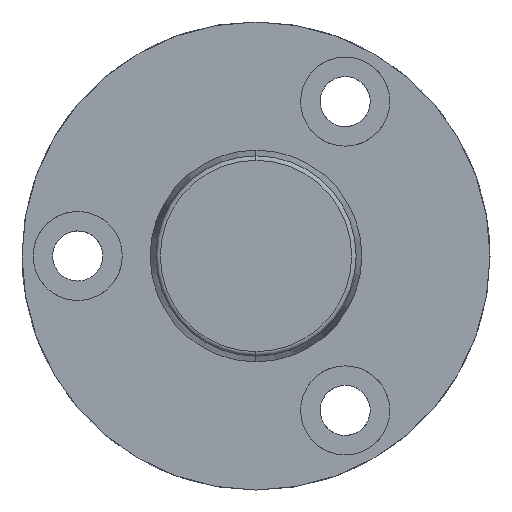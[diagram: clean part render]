
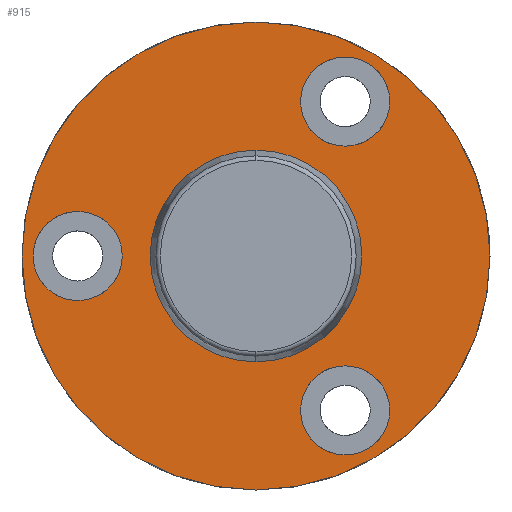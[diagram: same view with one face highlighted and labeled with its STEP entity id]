
A CAD part, left-side view. The second image highlights one B-rep face of the part: STEP entity #915.
In plain terms, the highlighted planar face has unit normal (-1, 0, 0).
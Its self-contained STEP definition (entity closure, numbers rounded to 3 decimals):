
#429=CARTESIAN_POINT('Vertex',(-8.,0.,-21.)) ;
#432=CARTESIAN_POINT('Axis2P3D Location',(-8.,0.,0.)) ;
#436=CARTESIAN_POINT('Vertex',(-8.,21.,0.)) ;
#439=CARTESIAN_POINT('Axis2P3D Location',(-8.,0.,0.)) ;
#443=CARTESIAN_POINT('Vertex',(-8.,0.,21.)) ;
#465=CARTESIAN_POINT('Axis2P3D Location',(-8.,0.,0.)) ;
#469=CARTESIAN_POINT('Vertex',(-8.,-21.,0.)) ;
#472=CARTESIAN_POINT('Axis2P3D Location',(-8.,0.,0.)) ;
#768=CARTESIAN_POINT('Axis2P3D Location',(-8.,8.,0.)) ;
#779=CARTESIAN_POINT('Axis2P3D Location',(-8.,16.,0.)) ;
#783=CARTESIAN_POINT('Vertex',(-8.,16.,4.)) ;
#785=CARTESIAN_POINT('Vertex',(-8.,20.,0.)) ;
#788=CARTESIAN_POINT('Axis2P3D Location',(-8.,16.,0.)) ;
#792=CARTESIAN_POINT('Vertex',(-8.,12.,0.)) ;
#795=CARTESIAN_POINT('Axis2P3D Location',(-8.,16.,0.)) ;
#799=CARTESIAN_POINT('Vertex',(-8.,16.,-4.)) ;
#802=CARTESIAN_POINT('Axis2P3D Location',(-8.,16.,0.)) ;
#813=CARTESIAN_POINT('Axis2P3D Location',(-8.,-8.,13.856)) ;
#817=CARTESIAN_POINT('Vertex',(-8.,-4.,13.856)) ;
#819=CARTESIAN_POINT('Vertex',(-8.,-8.,17.856)) ;
#822=CARTESIAN_POINT('Axis2P3D Location',(-8.,-8.,13.856)) ;
#826=CARTESIAN_POINT('Vertex',(-8.,-12.,13.856)) ;
#829=CARTESIAN_POINT('Axis2P3D Location',(-8.,-8.,13.856)) ;
#833=CARTESIAN_POINT('Vertex',(-8.,-8.,9.856)) ;
#836=CARTESIAN_POINT('Axis2P3D Location',(-8.,-8.,13.856)) ;
#847=CARTESIAN_POINT('Axis2P3D Location',(-8.,-8.,-13.856)) ;
#851=CARTESIAN_POINT('Vertex',(-8.,-4.,-13.856)) ;
#853=CARTESIAN_POINT('Vertex',(-8.,-8.,-9.856)) ;
#856=CARTESIAN_POINT('Axis2P3D Location',(-8.,-8.,-13.856)) ;
#860=CARTESIAN_POINT('Vertex',(-8.,-12.,-13.856)) ;
#863=CARTESIAN_POINT('Axis2P3D Location',(-8.,-8.,-13.856)) ;
#867=CARTESIAN_POINT('Vertex',(-8.,-8.,-17.856)) ;
#870=CARTESIAN_POINT('Axis2P3D Location',(-8.,-8.,-13.856)) ;
#881=CARTESIAN_POINT('Axis2P3D Location',(-8.,0.,0.)) ;
#885=CARTESIAN_POINT('Vertex',(-8.,8.,0.)) ;
#887=CARTESIAN_POINT('Vertex',(-8.,0.,8.)) ;
#890=CARTESIAN_POINT('Axis2P3D Location',(-8.,0.,0.)) ;
#894=CARTESIAN_POINT('Vertex',(-8.,-8.,0.)) ;
#897=CARTESIAN_POINT('Axis2P3D Location',(-8.,0.,0.)) ;
#901=CARTESIAN_POINT('Vertex',(-8.,0.,-8.)) ;
#904=CARTESIAN_POINT('Axis2P3D Location',(-8.,0.,0.)) ;
#433=DIRECTION('Axis2P3D Direction',(-1.,-0.,-0.)) ;
#440=DIRECTION('Axis2P3D Direction',(-1.,-0.,-0.)) ;
#466=DIRECTION('Axis2P3D Direction',(-1.,-0.,-0.)) ;
#473=DIRECTION('Axis2P3D Direction',(-1.,-0.,-0.)) ;
#769=DIRECTION('Axis2P3D Direction',(1.,0.,-0.)) ;
#770=DIRECTION('Axis2P3D XDirection',(-0.,0.,-1.)) ;
#780=DIRECTION('Axis2P3D Direction',(1.,0.,-0.)) ;
#789=DIRECTION('Axis2P3D Direction',(1.,0.,-0.)) ;
#796=DIRECTION('Axis2P3D Direction',(1.,0.,-0.)) ;
#803=DIRECTION('Axis2P3D Direction',(1.,0.,-0.)) ;
#814=DIRECTION('Axis2P3D Direction',(1.,0.,-0.)) ;
#823=DIRECTION('Axis2P3D Direction',(1.,0.,-0.)) ;
#830=DIRECTION('Axis2P3D Direction',(1.,0.,-0.)) ;
#837=DIRECTION('Axis2P3D Direction',(1.,0.,-0.)) ;
#848=DIRECTION('Axis2P3D Direction',(1.,0.,-0.)) ;
#857=DIRECTION('Axis2P3D Direction',(1.,0.,-0.)) ;
#864=DIRECTION('Axis2P3D Direction',(1.,0.,-0.)) ;
#871=DIRECTION('Axis2P3D Direction',(1.,0.,-0.)) ;
#882=DIRECTION('Axis2P3D Direction',(1.,0.,-0.)) ;
#891=DIRECTION('Axis2P3D Direction',(1.,0.,-0.)) ;
#898=DIRECTION('Axis2P3D Direction',(1.,0.,-0.)) ;
#905=DIRECTION('Axis2P3D Direction',(1.,0.,-0.)) ;
#434=AXIS2_PLACEMENT_3D('Circle Axis2P3D',#432,#433,$) ;
#441=AXIS2_PLACEMENT_3D('Circle Axis2P3D',#439,#440,$) ;
#467=AXIS2_PLACEMENT_3D('Circle Axis2P3D',#465,#466,$) ;
#474=AXIS2_PLACEMENT_3D('Circle Axis2P3D',#472,#473,$) ;
#771=AXIS2_PLACEMENT_3D('Plane Axis2P3D',#768,#769,#770) ;
#781=AXIS2_PLACEMENT_3D('Circle Axis2P3D',#779,#780,$) ;
#790=AXIS2_PLACEMENT_3D('Circle Axis2P3D',#788,#789,$) ;
#797=AXIS2_PLACEMENT_3D('Circle Axis2P3D',#795,#796,$) ;
#804=AXIS2_PLACEMENT_3D('Circle Axis2P3D',#802,#803,$) ;
#815=AXIS2_PLACEMENT_3D('Circle Axis2P3D',#813,#814,$) ;
#824=AXIS2_PLACEMENT_3D('Circle Axis2P3D',#822,#823,$) ;
#831=AXIS2_PLACEMENT_3D('Circle Axis2P3D',#829,#830,$) ;
#838=AXIS2_PLACEMENT_3D('Circle Axis2P3D',#836,#837,$) ;
#849=AXIS2_PLACEMENT_3D('Circle Axis2P3D',#847,#848,$) ;
#858=AXIS2_PLACEMENT_3D('Circle Axis2P3D',#856,#857,$) ;
#865=AXIS2_PLACEMENT_3D('Circle Axis2P3D',#863,#864,$) ;
#872=AXIS2_PLACEMENT_3D('Circle Axis2P3D',#870,#871,$) ;
#883=AXIS2_PLACEMENT_3D('Circle Axis2P3D',#881,#882,$) ;
#892=AXIS2_PLACEMENT_3D('Circle Axis2P3D',#890,#891,$) ;
#899=AXIS2_PLACEMENT_3D('Circle Axis2P3D',#897,#898,$) ;
#906=AXIS2_PLACEMENT_3D('Circle Axis2P3D',#904,#905,$) ;
#774=ORIENTED_EDGE('',*,*,#438,.F.) ;
#775=ORIENTED_EDGE('',*,*,#476,.F.) ;
#776=ORIENTED_EDGE('',*,*,#471,.F.) ;
#777=ORIENTED_EDGE('',*,*,#445,.F.) ;
#808=ORIENTED_EDGE('',*,*,#787,.F.) ;
#809=ORIENTED_EDGE('',*,*,#794,.F.) ;
#810=ORIENTED_EDGE('',*,*,#801,.F.) ;
#811=ORIENTED_EDGE('',*,*,#806,.F.) ;
#842=ORIENTED_EDGE('',*,*,#821,.T.) ;
#843=ORIENTED_EDGE('',*,*,#828,.T.) ;
#844=ORIENTED_EDGE('',*,*,#835,.T.) ;
#845=ORIENTED_EDGE('',*,*,#840,.T.) ;
#876=ORIENTED_EDGE('',*,*,#855,.T.) ;
#877=ORIENTED_EDGE('',*,*,#862,.T.) ;
#878=ORIENTED_EDGE('',*,*,#869,.T.) ;
#879=ORIENTED_EDGE('',*,*,#874,.T.) ;
#910=ORIENTED_EDGE('',*,*,#889,.T.) ;
#911=ORIENTED_EDGE('',*,*,#896,.T.) ;
#912=ORIENTED_EDGE('',*,*,#903,.T.) ;
#913=ORIENTED_EDGE('',*,*,#908,.T.) ;
#812=FACE_BOUND('',#807,.T.) ;
#846=FACE_BOUND('',#841,.T.) ;
#880=FACE_BOUND('',#875,.T.) ;
#914=FACE_BOUND('',#909,.T.) ;
#915=ADVANCED_FACE('721-19x190',(#778,#812,#846,#880,#914),#772,.F.) ;
#435=CIRCLE('generated circle',#434,21.) ;
#442=CIRCLE('generated circle',#441,21.) ;
#468=CIRCLE('generated circle',#467,21.) ;
#475=CIRCLE('generated circle',#474,21.) ;
#782=CIRCLE('generated circle',#781,4.) ;
#791=CIRCLE('generated circle',#790,4.) ;
#798=CIRCLE('generated circle',#797,4.) ;
#805=CIRCLE('generated circle',#804,4.) ;
#816=CIRCLE('generated circle',#815,4.) ;
#825=CIRCLE('generated circle',#824,4.) ;
#832=CIRCLE('generated circle',#831,4.) ;
#839=CIRCLE('generated circle',#838,4.) ;
#850=CIRCLE('generated circle',#849,4.) ;
#859=CIRCLE('generated circle',#858,4.) ;
#866=CIRCLE('generated circle',#865,4.) ;
#873=CIRCLE('generated circle',#872,4.) ;
#884=CIRCLE('generated circle',#883,8.) ;
#893=CIRCLE('generated circle',#892,8.) ;
#900=CIRCLE('generated circle',#899,8.) ;
#907=CIRCLE('generated circle',#906,8.) ;
#438=EDGE_CURVE('',#430,#437,#435,.F.) ;
#445=EDGE_CURVE('',#437,#444,#442,.F.) ;
#471=EDGE_CURVE('',#444,#470,#468,.F.) ;
#476=EDGE_CURVE('',#470,#430,#475,.F.) ;
#787=EDGE_CURVE('',#784,#786,#782,.F.) ;
#794=EDGE_CURVE('',#793,#784,#791,.F.) ;
#801=EDGE_CURVE('',#800,#793,#798,.F.) ;
#806=EDGE_CURVE('',#786,#800,#805,.F.) ;
#821=EDGE_CURVE('',#818,#820,#816,.T.) ;
#828=EDGE_CURVE('',#820,#827,#825,.T.) ;
#835=EDGE_CURVE('',#827,#834,#832,.T.) ;
#840=EDGE_CURVE('',#834,#818,#839,.T.) ;
#855=EDGE_CURVE('',#852,#854,#850,.T.) ;
#862=EDGE_CURVE('',#854,#861,#859,.T.) ;
#869=EDGE_CURVE('',#861,#868,#866,.T.) ;
#874=EDGE_CURVE('',#868,#852,#873,.T.) ;
#889=EDGE_CURVE('',#886,#888,#884,.T.) ;
#896=EDGE_CURVE('',#888,#895,#893,.T.) ;
#903=EDGE_CURVE('',#895,#902,#900,.T.) ;
#908=EDGE_CURVE('',#902,#886,#907,.T.) ;
#773=EDGE_LOOP('',(#774,#775,#776,#777)) ;
#807=EDGE_LOOP('',(#808,#809,#810,#811)) ;
#841=EDGE_LOOP('',(#842,#843,#844,#845)) ;
#875=EDGE_LOOP('',(#876,#877,#878,#879)) ;
#909=EDGE_LOOP('',(#910,#911,#912,#913)) ;
#778=FACE_OUTER_BOUND('',#773,.T.) ;
#772=PLANE('Plane',#771) ;
#430=VERTEX_POINT('',#429) ;
#437=VERTEX_POINT('',#436) ;
#444=VERTEX_POINT('',#443) ;
#470=VERTEX_POINT('',#469) ;
#784=VERTEX_POINT('',#783) ;
#786=VERTEX_POINT('',#785) ;
#793=VERTEX_POINT('',#792) ;
#800=VERTEX_POINT('',#799) ;
#818=VERTEX_POINT('',#817) ;
#820=VERTEX_POINT('',#819) ;
#827=VERTEX_POINT('',#826) ;
#834=VERTEX_POINT('',#833) ;
#852=VERTEX_POINT('',#851) ;
#854=VERTEX_POINT('',#853) ;
#861=VERTEX_POINT('',#860) ;
#868=VERTEX_POINT('',#867) ;
#886=VERTEX_POINT('',#885) ;
#888=VERTEX_POINT('',#887) ;
#895=VERTEX_POINT('',#894) ;
#902=VERTEX_POINT('',#901) ;
